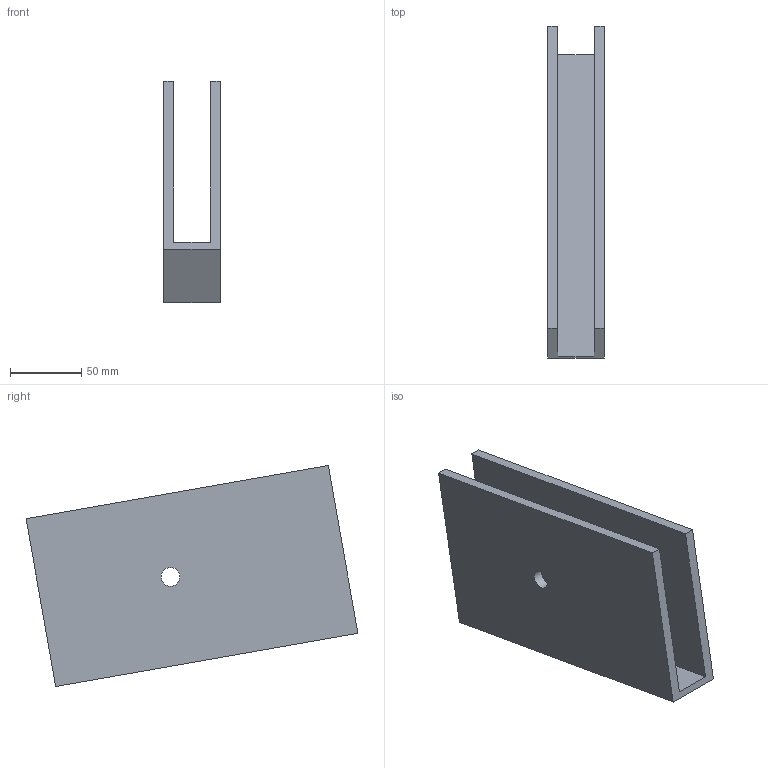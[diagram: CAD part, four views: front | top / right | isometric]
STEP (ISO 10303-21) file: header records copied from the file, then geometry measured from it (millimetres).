
FILE_DESCRIPTION(('golf model'),'2;1');
FILE_NAME('golf','',(''),(''),'golf_step_io','golf','');
FILE_SCHEMA(('AUTOMOTIVE_DESIGN { 1 0 10303 214 1 1 1 1 }'));
Length unit declared in the file: millimetre
Products named in the file (2): ASSEMBLY; counterweight.sheave_fork
Assembly tree (1 placements, depth 2):
  ASSEMBLY
    counterweight.sheave_fork
Bounding box: 40 x 233.56 x 155.68 mm (x, y, z)
Volume: 389044.1 mm3; surface area: 122453.2 mm2
Topology: 1 solids, 1 shells, 12 faces, 30 edges, 20 vertices
Faces by surface type: plane 10, cylinder 2
Full cylindrical faces by diameter (mm): 13.2 x2
Entity records: 390 total; most frequent: CARTESIAN_POINT 62, DIRECTION 60, ORIENTED_EDGE 56, EDGE_CURVE 28, VECTOR 24, LINE 24, VERTEX_POINT 20, AXIS2_PLACEMENT_3D 18
